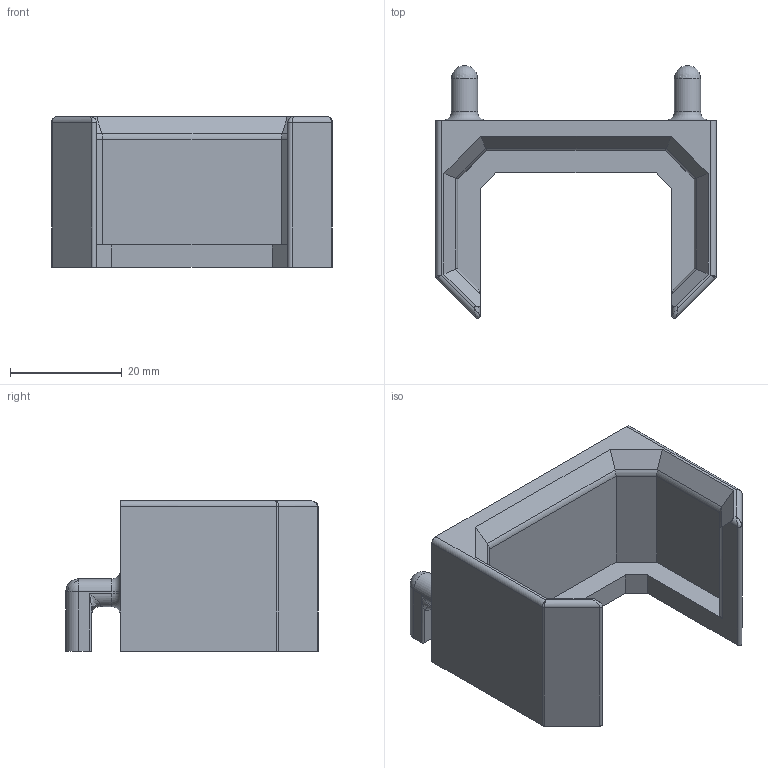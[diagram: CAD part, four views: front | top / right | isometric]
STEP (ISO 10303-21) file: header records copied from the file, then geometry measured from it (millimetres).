
FILE_DESCRIPTION(/* description */ (''),/* implementation_level */ '2;1');
FILE_NAME(/* name */ 'skadis blower.step',/* time_stamp */ '2025-11-29T19:52:51Z',/* author */ (''),/* organization */ (''),/* preprocessor_version */ 'ST-DEVELOPER v20.1',/* originating_system */ 'Autodesk Translation Framework v14.21.0.0',/* authorisation */ '');
FILE_SCHEMA (('AUTOMOTIVE_DESIGN { 1 0 10303 214 3 1 1 }'));
Length unit declared in the file: millimetre
Products named in the file (1): skadis blower
Bounding box: 50.4 x 45.35 x 27 mm (x, y, z)
Volume: 16167.8 mm3; surface area: 8139 mm2
Topology: 1 solids, 1 shells, 84 faces, 208 edges, 116 vertices
Faces by surface type: plane 35, cylinder 33, bspline 8, torus 6, sphere 2
Entity records: 2693 total; most frequent: CARTESIAN_POINT 743, DIRECTION 408, ORIENTED_EDGE 392, EDGE_CURVE 196, AXIS2_PLACEMENT_3D 143, LINE 122, VECTOR 122, VERTEX_POINT 116
